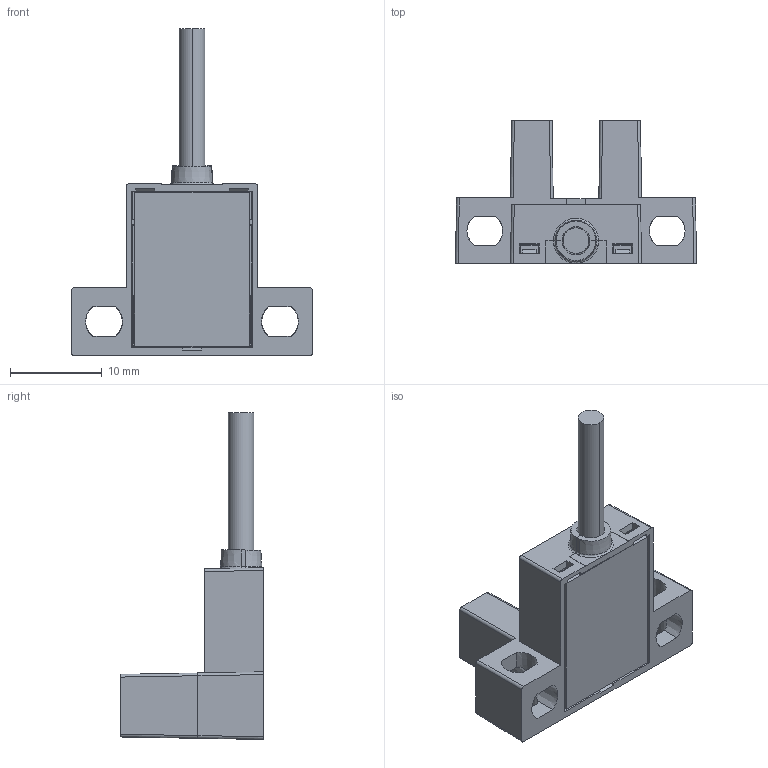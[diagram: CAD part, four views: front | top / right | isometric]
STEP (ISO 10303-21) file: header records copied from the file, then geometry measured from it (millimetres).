
FILE_DESCRIPTION((''),'2;1');
FILE_NAME('SL-305-W_ASM','2018-05-30T',('Gavin'),(''),'PRO/ENGINEER BY PARAMETRIC TECHNOLOGY CORPORATION, 2009440','PRO/ENGINEER BY PARAMETRIC TECHNOLOGY CORPORATION, 2009440','');
FILE_SCHEMA(('CONFIG_CONTROL_DESIGN'));
Length unit declared in the file: millimetre
Products named in the file (10): MANIFOLD_SOLID_BREP_108; MANIFOLD_SOLID_BREP_109; MANIFOLD_SOLID_BREP_110; _X2_53D151497BA1_X0_-111; _X2_53D151497BA1_X0_-112; BOARD_1; _GAVI16A8FEA7XWSO; PRT0001; GAVI16A8FEA7XWSO_ASM; SL-305-W_ASM
Assembly tree (9 placements, depth 3):
  SL-305-W_ASM
    GAVI16A8FEA7XWSO_ASM
      MANIFOLD_SOLID_BREP_108
      MANIFOLD_SOLID_BREP_109
      MANIFOLD_SOLID_BREP_110
      _X2_53D151497BA1_X0_-111
      _X2_53D151497BA1_X0_-112
      BOARD_1
      _GAVI16A8FEA7XWSO
      PRT0001
Bounding box: 26.33 x 15.7 x 35.69 mm (x, y, z)
Volume: 1657.2 mm3; surface area: 4979.2 mm2
Topology: 7 solids, 12 shells, 541 faces, 1497 edges, 998 vertices
Faces by surface type: plane 424, cylinder 73, torus 20, cone 18, sphere 4, bspline 2
Entity records: 17995 total; most frequent: CARTESIAN_POINT 3929, ORIENTED_EDGE 2994, DIRECTION 2659, EDGE_CURVE 1497, VECTOR 1169, LINE 1169, VERTEX_POINT 998, AXIS2_PLACEMENT_3D 745
